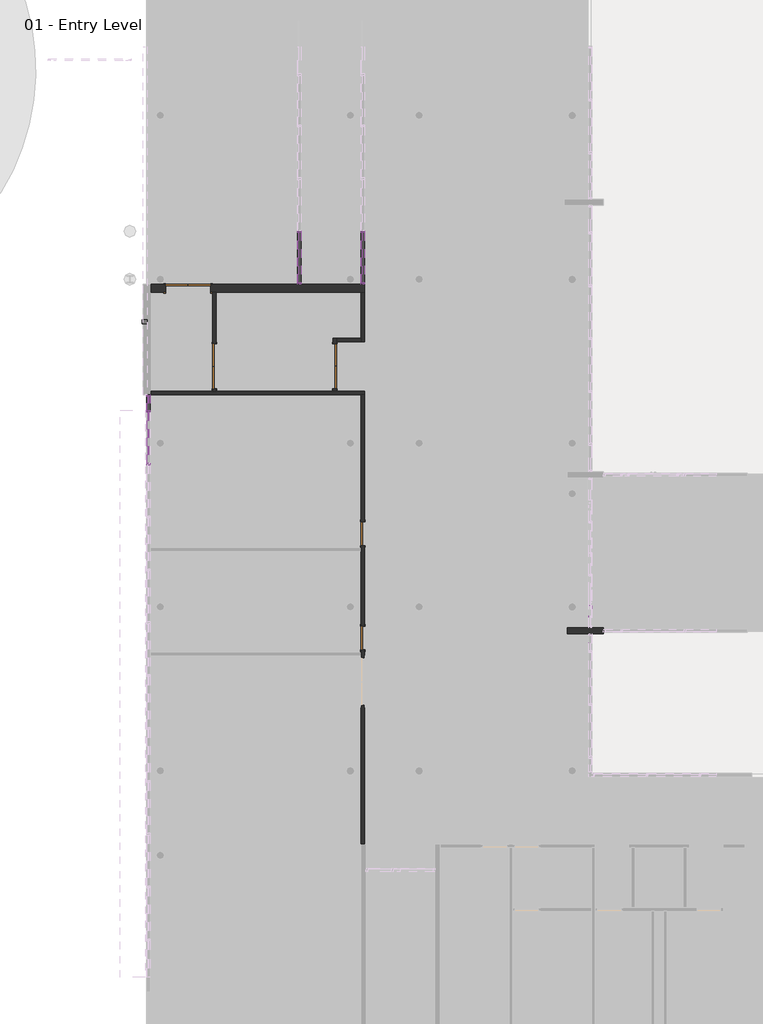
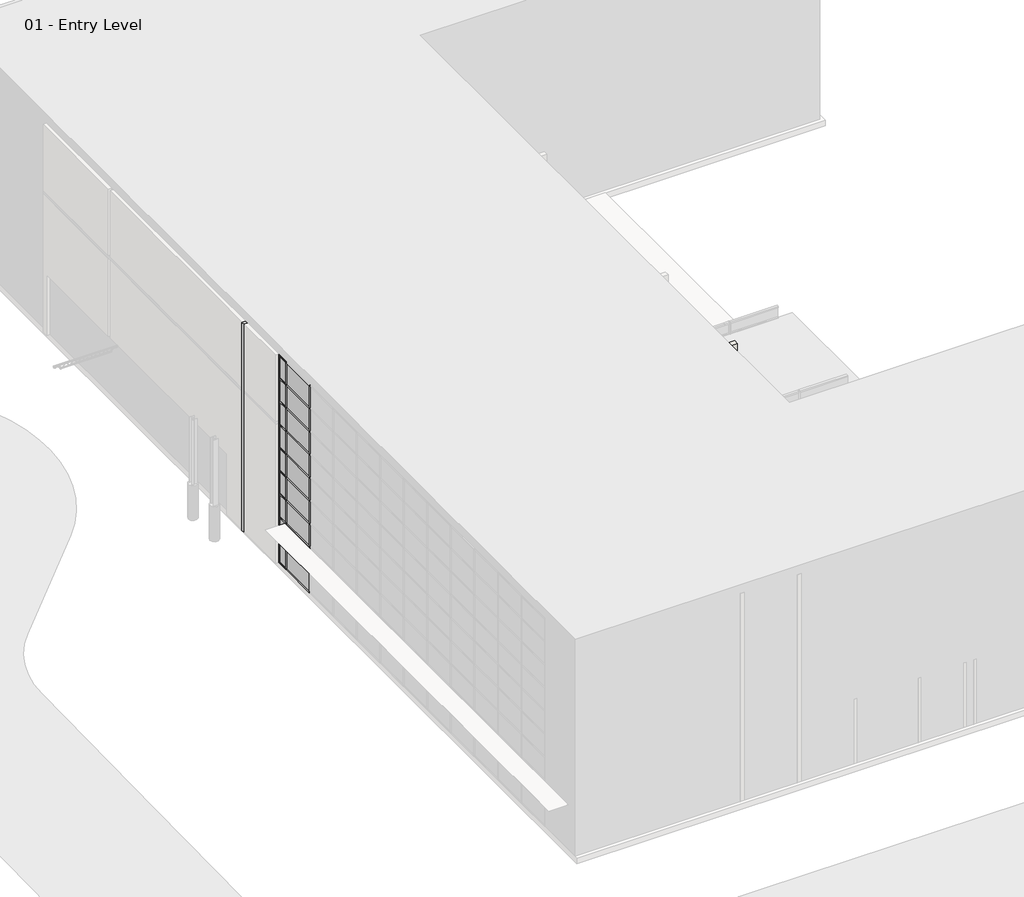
# One storey, part 12 of 34: 72 members, 24 plates, 8 walls, 5 doors, 1 proxy.
"""IFC4 building model written with IfcOpenShell, lengths in millimetres."""

from ifc_helpers import new_model, si_unit, frame, origin, origin_with_axes, place, context, project, spatial, polyline, outline, extrude, faceted_brep, transform, mapped, element, save
from components import door_07ba55ef, door_bdee7c2d, door_a3eb833a, member_2b49869a, member_75074519, member_18e22e2d, member_9193c932, member_391b434c, member_4f18b2ac, member_7a85b04f, member_fbc627c7, member_73c075c8, member_ece69ae7, member_e5d39754, member_5aa65f11, member_47bfaf8a, member_5d67b9fc, member_c327c56d, member_ec52078f, member_cc8ff548, system_panel_glazed_ac179f57, system_panel_glazed_1b9d6098, system_panel_glazed_70da479d, system_panel_glazed_9419342d, system_panel_glazed_b3ddbf8e, system_panel_glazed_346f81d9, system_panel_glazed_d60e1f89, system_panel_solid_b376696c, system_panel_solid_77e8b053, system_panel_solid_89b132cb, system_panel_solid_f04240b3

model = new_model("IFC4")

# Units and contexts
model_context = context("Model", 3, world=origin())
ifc_project = project(units=[si_unit("LENGTHUNIT", "METRE", prefix="MILLI")], contexts=[model_context])

# Site, building, storey
site = spatial("IfcSite", under=ifc_project)
building = spatial("IfcBuilding", under=site)
storey = spatial("IfcBuildingStorey", under=building, Name="01 - Entry Level", Elevation=0.0)

# Proxy
placement = place(None, origin())
element("IfcBuildingElementProxy", 1, Name="Reveal", ObjectType="Reveal", at=placement, inside=storey, context=model_context, shape_type="SweptSolid", body=[
    extrude(outline(polyline([(-58.1342524, 28514.6), (124.7457476, 28514.6), (124.7457476, 28362.2), (-58.1342524, 28362.2), (-58.1342524, 28514.6)])), origin_with_axes(), (0.0, 0.0, 1.0), 10972.8),
])

# Doors
door_shape = door_07ba55ef(model_context)
element("IfcDoor", 2, ObjectType="Double-Flush : 68\" x 84\"", at=placement, inside=storey, context=model_context, shape_type="MappedRepresentation", body=[
    mapped(door_shape, transform((2718.7207476, 26711.2, 0.0), x_axis=(0.0, 1.0, 0.0), y_axis=(-1.0, 0.0, 0.0), z_axis=(0.0, 0.0, 1.0))),
])
element("IfcDoor", 3, ObjectType="Double-Flush : 68\" x 84\"", at=placement, inside=storey, context=model_context, shape_type="MappedRepresentation", body=[
    mapped(door_shape, transform((7354.2207476, 26711.2, 0.0), x_axis=(0.0, -1.0, 0.0), y_axis=(1.0, 0.0, 0.0), z_axis=(0.0, 0.0, 1.0))),
])
door_2_shape = door_bdee7c2d(model_context)
element("IfcDoor", 4, ObjectType="Double-Flush : 68\" x 84\"", at=placement, inside=storey, context=model_context, shape_type="MappedRepresentation", body=[
    mapped(door_2_shape, transform((1702.7207476, 29709.9875, 0.0), x_axis=(1.0, 0.0, 0.0), y_axis=(0.0, 1.0, 0.0), z_axis=(0.0, 0.0, 1.0))),
])
door_3_shape = door_a3eb833a(model_context)
element("IfcDoor", 5, ObjectType="Single-Flush : 36\" x 84\"", at=placement, inside=storey, context=model_context, shape_type="MappedRepresentation", body=[
    mapped(door_3_shape, transform((8421.0207476, 20285.0, 0.0), x_axis=(0.0, -1.0, 0.0), y_axis=(1.0, 0.0, 0.0), z_axis=(0.0, 0.0, 1.0))),
])
element("IfcDoor", 6, ObjectType="Single-Flush : 36\" x 84\"", at=placement, inside=storey, context=model_context, shape_type="MappedRepresentation", body=[
    mapped(door_3_shape, transform((8421.0207476, 16271.8, 0.0), x_axis=(0.0, -1.0, 0.0), y_axis=(1.0, 0.0, 0.0), z_axis=(0.0, 0.0, 1.0))),
])

# Members
member_shape = member_2b49869a(model_context)
element("IfcMember", 7, ObjectType="Rectangular Mullion : 2.5\" x 5\" rectangular", at=placement, inside=storey, context=model_context, shape_type="MappedRepresentation", body=[
    mapped(member_shape, transform((178.7207476, 24984.0, 9753.6), x_axis=(0.0, -1.0, 0.0), y_axis=(-1.0, 0.0, 0.0), z_axis=(0.0, 0.0, -1.0))),
])
element("IfcMember", 8, ObjectType="Rectangular Mullion : 2.5\" x 5\" rectangular", at=placement, inside=storey, context=model_context, shape_type="MappedRepresentation", body=[
    mapped(member_shape, transform((178.7207476, 22952.0, 9753.6), x_axis=(0.0, -1.0, 0.0), y_axis=(-1.0, 0.0, 0.0), z_axis=(0.0, 0.0, -1.0))),
])
member_2_shape = member_75074519(model_context)
element("IfcMember", 9, ObjectType="Rectangular Mullion : 2.5\" x 5\" rectangular", at=placement, inside=storey, context=model_context, shape_type="MappedRepresentation", body=[
    mapped(member_2_shape, transform((178.7207476, 25631.7, 10972.8), x_axis=(0.0, 1.0, 0.0), y_axis=(-1.0, 0.0, 0.0), z_axis=(0.0, 0.0, 1.0))),
])
element("IfcMember", 10, ObjectType="Rectangular Mullion : 2.5\" x 5\" rectangular", at=placement, inside=storey, context=model_context, shape_type="MappedRepresentation", body=[
    mapped(member_2_shape, transform((17184.0207476, 16665.5, 10972.8), x_axis=(0.0, -1.0, 0.0), y_axis=(1.0, 0.0, 0.0), z_axis=(0.0, 0.0, 1.0))),
])
member_3_shape = member_18e22e2d(model_context)
element("IfcMember", 11, ObjectType="Rectangular Mullion : 2.5\" x 5\" rectangular", at=placement, inside=storey, context=model_context, shape_type="MappedRepresentation", body=[
    mapped(member_3_shape, transform((5982.6207476, 31895.975, 2438.4), x_axis=(0.0, 1.0, 0.0), y_axis=(1.0, 0.0, 0.0), z_axis=(0.0, 0.0, -1.0))),
])
element("IfcMember", 12, ObjectType="Rectangular Mullion : 2.5\" x 5\" rectangular", at=placement, inside=storey, context=model_context, shape_type="MappedRepresentation", body=[
    mapped(member_3_shape, transform((8421.0207476, 31895.975, 2438.4), x_axis=(0.0, 1.0, 0.0), y_axis=(1.0, 0.0, 0.0), z_axis=(0.0, 0.0, -1.0))),
])
member_4_shape = member_9193c932(model_context)
element("IfcMember", 13, ObjectType="Rectangular Mullion : 2.5\" x 5\" rectangular", at=placement, inside=storey, context=model_context, shape_type="MappedRepresentation", body=[
    mapped(member_4_shape, transform((5982.6207476, 29863.975, 3403.6), x_axis=(0.0, -1.0, 0.0), y_axis=(1.0, 0.0, 0.0), z_axis=(0.0, 0.0, 1.0))),
])
element("IfcMember", 14, ObjectType="Rectangular Mullion : 2.5\" x 5\" rectangular", at=placement, inside=storey, context=model_context, shape_type="MappedRepresentation", body=[
    mapped(member_4_shape, transform((8421.0207476, 29863.975, 3403.6), x_axis=(0.0, -1.0, 0.0), y_axis=(1.0, 0.0, 0.0), z_axis=(0.0, 0.0, 1.0))),
])
member_5_shape = member_391b434c(model_context)
element("IfcMember", 15, ObjectType="Rectangular Mullion : 2.5\" x 5\" rectangular", at=placement, inside=storey, context=model_context, shape_type="MappedRepresentation", body=[
    mapped(member_5_shape, transform((178.7207476, 24952.25, 0.0), x_axis=(0.0, 0.0, -1.0), y_axis=(-1.0, 0.0, 0.0), z_axis=(0.0, 1.0, 0.0))),
])
element("IfcMember", 16, ObjectType="Rectangular Mullion : 2.5\" x 5\" rectangular", at=placement, inside=storey, context=model_context, shape_type="MappedRepresentation", body=[
    mapped(member_shape, transform((178.7207476, 24984.0, 0.0), x_axis=(0.0, -1.0, 0.0), y_axis=(-1.0, 0.0, 0.0), z_axis=(0.0, 0.0, -1.0))),
])
element("IfcMember", 17, ObjectType="Rectangular Mullion : 2.5\" x 5\" rectangular", at=placement, inside=storey, context=model_context, shape_type="MappedRepresentation", body=[
    mapped(member_shape, transform((178.7207476, 24984.0, 1219.2), x_axis=(0.0, -1.0, 0.0), y_axis=(-1.0, 0.0, 0.0), z_axis=(0.0, 0.0, -1.0))),
])
element("IfcMember", 18, ObjectType="Rectangular Mullion : 2.5\" x 5\" rectangular", at=placement, inside=storey, context=model_context, shape_type="MappedRepresentation", body=[
    mapped(member_shape, transform((178.7207476, 22952.0, 1219.2), x_axis=(0.0, -1.0, 0.0), y_axis=(-1.0, 0.0, 0.0), z_axis=(0.0, 0.0, -1.0))),
])
element("IfcMember", 19, ObjectType="Rectangular Mullion : 2.5\" x 5\" rectangular", at=placement, inside=storey, context=model_context, shape_type="MappedRepresentation", body=[
    mapped(member_shape, transform((178.7207476, 24984.0, 2438.4), x_axis=(0.0, -1.0, 0.0), y_axis=(-1.0, 0.0, 0.0), z_axis=(0.0, 0.0, -1.0))),
])
element("IfcMember", 20, ObjectType="Rectangular Mullion : 2.5\" x 5\" rectangular", at=placement, inside=storey, context=model_context, shape_type="MappedRepresentation", body=[
    mapped(member_shape, transform((178.7207476, 22952.0, 2438.4), x_axis=(0.0, -1.0, 0.0), y_axis=(-1.0, 0.0, 0.0), z_axis=(0.0, 0.0, -1.0))),
])
element("IfcMember", 21, ObjectType="Rectangular Mullion : 2.5\" x 5\" rectangular", at=placement, inside=storey, context=model_context, shape_type="MappedRepresentation", body=[
    mapped(member_shape, transform((178.7207476, 24984.0, 3657.6), x_axis=(0.0, -1.0, 0.0), y_axis=(-1.0, 0.0, 0.0), z_axis=(0.0, 0.0, -1.0))),
])
element("IfcMember", 22, ObjectType="Rectangular Mullion : 2.5\" x 5\" rectangular", at=placement, inside=storey, context=model_context, shape_type="MappedRepresentation", body=[
    mapped(member_shape, transform((178.7207476, 22952.0, 3657.6), x_axis=(0.0, -1.0, 0.0), y_axis=(-1.0, 0.0, 0.0), z_axis=(0.0, 0.0, -1.0))),
])
element("IfcMember", 23, ObjectType="Rectangular Mullion : 2.5\" x 5\" rectangular", at=placement, inside=storey, context=model_context, shape_type="MappedRepresentation", body=[
    mapped(member_shape, transform((178.7207476, 24984.0, 4876.8), x_axis=(0.0, -1.0, 0.0), y_axis=(-1.0, 0.0, 0.0), z_axis=(0.0, 0.0, -1.0))),
])
element("IfcMember", 24, ObjectType="Rectangular Mullion : 2.5\" x 5\" rectangular", at=placement, inside=storey, context=model_context, shape_type="MappedRepresentation", body=[
    mapped(member_shape, transform((178.7207476, 22952.0, 4876.8), x_axis=(0.0, -1.0, 0.0), y_axis=(-1.0, 0.0, 0.0), z_axis=(0.0, 0.0, -1.0))),
])
element("IfcMember", 25, ObjectType="Rectangular Mullion : 2.5\" x 5\" rectangular", at=placement, inside=storey, context=model_context, shape_type="MappedRepresentation", body=[
    mapped(member_shape, transform((178.7207476, 24984.0, 6096.0), x_axis=(0.0, -1.0, 0.0), y_axis=(-1.0, 0.0, 0.0), z_axis=(0.0, 0.0, -1.0))),
])
element("IfcMember", 26, ObjectType="Rectangular Mullion : 2.5\" x 5\" rectangular", at=placement, inside=storey, context=model_context, shape_type="MappedRepresentation", body=[
    mapped(member_shape, transform((178.7207476, 22952.0, 6096.0), x_axis=(0.0, -1.0, 0.0), y_axis=(-1.0, 0.0, 0.0), z_axis=(0.0, 0.0, -1.0))),
])
element("IfcMember", 27, ObjectType="Rectangular Mullion : 2.5\" x 5\" rectangular", at=placement, inside=storey, context=model_context, shape_type="MappedRepresentation", body=[
    mapped(member_shape, transform((178.7207476, 24984.0, 7315.2), x_axis=(0.0, -1.0, 0.0), y_axis=(-1.0, 0.0, 0.0), z_axis=(0.0, 0.0, -1.0))),
])
element("IfcMember", 28, ObjectType="Rectangular Mullion : 2.5\" x 5\" rectangular", at=placement, inside=storey, context=model_context, shape_type="MappedRepresentation", body=[
    mapped(member_shape, transform((178.7207476, 22952.0, 7315.2), x_axis=(0.0, -1.0, 0.0), y_axis=(-1.0, 0.0, 0.0), z_axis=(0.0, 0.0, -1.0))),
])
element("IfcMember", 29, ObjectType="Rectangular Mullion : 2.5\" x 5\" rectangular", at=placement, inside=storey, context=model_context, shape_type="MappedRepresentation", body=[
    mapped(member_shape, transform((178.7207476, 24984.0, 8534.4), x_axis=(0.0, -1.0, 0.0), y_axis=(-1.0, 0.0, 0.0), z_axis=(0.0, 0.0, -1.0))),
])
element("IfcMember", 30, ObjectType="Rectangular Mullion : 2.5\" x 5\" rectangular", at=placement, inside=storey, context=model_context, shape_type="MappedRepresentation", body=[
    mapped(member_shape, transform((178.7207476, 22952.0, 8534.4), x_axis=(0.0, -1.0, 0.0), y_axis=(-1.0, 0.0, 0.0), z_axis=(0.0, 0.0, -1.0))),
])
member_6_shape = member_4f18b2ac(model_context)
element("IfcMember", 31, ObjectType="Rectangular Mullion : 2.5\" x 5\" rectangular", at=placement, inside=storey, context=model_context, shape_type="MappedRepresentation", body=[
    mapped(member_6_shape, transform((5982.6207476, 29927.475, 0.0), x_axis=(0.0, 0.0, -1.0), y_axis=(1.0, 0.0, 0.0), z_axis=(0.0, -1.0, 0.0))),
])
element("IfcMember", 32, ObjectType="Rectangular Mullion : 2.5\" x 5\" rectangular", at=placement, inside=storey, context=model_context, shape_type="MappedRepresentation", body=[
    mapped(member_6_shape, transform((8421.0207476, 29927.475, 0.0), x_axis=(0.0, 0.0, -1.0), y_axis=(1.0, 0.0, 0.0), z_axis=(0.0, -1.0, 0.0))),
])
element("IfcMember", 33, ObjectType="Rectangular Mullion : 2.5\" x 5\" rectangular", at=placement, inside=storey, context=model_context, shape_type="MappedRepresentation", body=[
    mapped(member_6_shape, transform((5982.6207476, 31864.225, 3403.6), x_axis=(0.0, 0.0, 1.0), y_axis=(1.0, 0.0, 0.0), z_axis=(0.0, 1.0, 0.0))),
])
element("IfcMember", 34, ObjectType="Rectangular Mullion : 2.5\" x 5\" rectangular", at=placement, inside=storey, context=model_context, shape_type="MappedRepresentation", body=[
    mapped(member_6_shape, transform((8421.0207476, 31864.225, 3403.6), x_axis=(0.0, 0.0, 1.0), y_axis=(1.0, 0.0, 0.0), z_axis=(0.0, 1.0, 0.0))),
])
element("IfcMember", 35, ObjectType="Rectangular Mullion : 2.5\" x 5\" rectangular", at=placement, inside=storey, context=model_context, shape_type="MappedRepresentation", body=[
    mapped(member_5_shape, transform((5982.6207476, 31927.725, 0.0), x_axis=(0.0, 0.0, -1.0), y_axis=(1.0, 0.0, 0.0), z_axis=(0.0, -1.0, 0.0))),
])
element("IfcMember", 36, ObjectType="Rectangular Mullion : 2.5\" x 5\" rectangular", at=placement, inside=storey, context=model_context, shape_type="MappedRepresentation", body=[
    mapped(member_5_shape, transform((8421.0207476, 31927.725, 0.0), x_axis=(0.0, 0.0, -1.0), y_axis=(1.0, 0.0, 0.0), z_axis=(0.0, -1.0, 0.0))),
])
member_7_shape = member_7a85b04f(model_context)
element("IfcMember", 37, ObjectType="Rectangular Mullion : 2.5\" x 5\" rectangular", at=placement, inside=storey, context=model_context, shape_type="MappedRepresentation", body=[
    mapped(member_7_shape, transform((5982.6207476, 31864.225, 1219.2), x_axis=(0.0, 0.0, 1.0), y_axis=(1.0, 0.0, 0.0), z_axis=(0.0, 1.0, 0.0))),
])
element("IfcMember", 38, ObjectType="Rectangular Mullion : 2.5\" x 5\" rectangular", at=placement, inside=storey, context=model_context, shape_type="MappedRepresentation", body=[
    mapped(member_7_shape, transform((5982.6207476, 31864.225, 2438.4), x_axis=(0.0, 0.0, 1.0), y_axis=(1.0, 0.0, 0.0), z_axis=(0.0, 1.0, 0.0))),
])
element("IfcMember", 39, ObjectType="Rectangular Mullion : 2.5\" x 5\" rectangular", at=placement, inside=storey, context=model_context, shape_type="MappedRepresentation", body=[
    mapped(member_7_shape, transform((8421.0207476, 31864.225, 1219.2), x_axis=(0.0, 0.0, 1.0), y_axis=(1.0, 0.0, 0.0), z_axis=(0.0, 1.0, 0.0))),
])
element("IfcMember", 40, ObjectType="Rectangular Mullion : 2.5\" x 5\" rectangular", at=placement, inside=storey, context=model_context, shape_type="MappedRepresentation", body=[
    mapped(member_7_shape, transform((8421.0207476, 31864.225, 2438.4), x_axis=(0.0, 0.0, 1.0), y_axis=(1.0, 0.0, 0.0), z_axis=(0.0, 1.0, 0.0))),
])
element("IfcMember", 41, ObjectType="Rectangular Mullion : 2.5\" x 5\" rectangular", at=placement, inside=storey, context=model_context, shape_type="MappedRepresentation", body=[
    mapped(member_shape, transform((5982.6207476, 31895.975, 0.0), x_axis=(0.0, 1.0, 0.0), y_axis=(1.0, 0.0, 0.0), z_axis=(0.0, 0.0, -1.0))),
])
element("IfcMember", 42, ObjectType="Rectangular Mullion : 2.5\" x 5\" rectangular", at=placement, inside=storey, context=model_context, shape_type="MappedRepresentation", body=[
    mapped(member_shape, transform((8421.0207476, 31895.975, 0.0), x_axis=(0.0, 1.0, 0.0), y_axis=(1.0, 0.0, 0.0), z_axis=(0.0, 0.0, -1.0))),
])
member_8_shape = member_fbc627c7(model_context)
element("IfcMember", 43, ObjectType="Rectangular Mullion : 2.5\" x 5\" rectangular", at=placement, inside=storey, context=model_context, shape_type="MappedRepresentation", body=[
    mapped(member_8_shape, transform((17184.0207476, 16665.5, 7598.3874103), x_axis=(0.0, -0.31622776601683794, -0.9486832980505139), y_axis=(1.0, 0.0, 0.0), z_axis=(0.0, -0.9486832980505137, 0.3162277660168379))),
])
element("IfcMember", 44, ObjectType="Rectangular Mullion : 2.5\" x 5\" rectangular", at=placement, inside=storey, context=model_context, shape_type="MappedRepresentation", body=[
    mapped(member_2_shape, transform((17184.0207476, 16436.9, 0.0), x_axis=(0.0, 1.0, 0.0), y_axis=(1.0, 0.0, 0.0), z_axis=(0.0, 0.0, -1.0))),
])
element("IfcMember", 45, ObjectType="Rectangular Mullion : 2.5\" x 5\" rectangular", at=placement, inside=storey, context=model_context, shape_type="MappedRepresentation", body=[
    mapped(member_2_shape, transform((17184.0207476, 16436.9, 1219.2), x_axis=(0.0, 1.0, 0.0), y_axis=(1.0, 0.0, 0.0), z_axis=(0.0, 0.0, -1.0))),
])
element("IfcMember", 46, ObjectType="Rectangular Mullion : 2.5\" x 5\" rectangular", at=placement, inside=storey, context=model_context, shape_type="MappedRepresentation", body=[
    mapped(member_2_shape, transform((17184.0207476, 16436.9, 2438.4), x_axis=(0.0, 1.0, 0.0), y_axis=(1.0, 0.0, 0.0), z_axis=(0.0, 0.0, -1.0))),
])
element("IfcMember", 47, ObjectType="Rectangular Mullion : 2.5\" x 5\" rectangular", at=placement, inside=storey, context=model_context, shape_type="MappedRepresentation", body=[
    mapped(member_2_shape, transform((17184.0207476, 16436.9, 3657.6), x_axis=(0.0, 1.0, 0.0), y_axis=(1.0, 0.0, 0.0), z_axis=(0.0, 0.0, -1.0))),
])
element("IfcMember", 48, ObjectType="Rectangular Mullion : 2.5\" x 5\" rectangular", at=placement, inside=storey, context=model_context, shape_type="MappedRepresentation", body=[
    mapped(member_2_shape, transform((178.7207476, 25631.7, 1219.2), x_axis=(0.0, 1.0, 0.0), y_axis=(-1.0, 0.0, 0.0), z_axis=(0.0, 0.0, 1.0))),
])
element("IfcMember", 49, ObjectType="Rectangular Mullion : 2.5\" x 5\" rectangular", at=placement, inside=storey, context=model_context, shape_type="MappedRepresentation", body=[
    mapped(member_2_shape, transform((178.7207476, 25631.7, 2438.4), x_axis=(0.0, 1.0, 0.0), y_axis=(-1.0, 0.0, 0.0), z_axis=(0.0, 0.0, 1.0))),
])
element("IfcMember", 50, ObjectType="Rectangular Mullion : 2.5\" x 5\" rectangular", at=placement, inside=storey, context=model_context, shape_type="MappedRepresentation", body=[
    mapped(member_2_shape, transform((178.7207476, 25631.7, 3657.6), x_axis=(0.0, 1.0, 0.0), y_axis=(-1.0, 0.0, 0.0), z_axis=(0.0, 0.0, 1.0))),
])
element("IfcMember", 51, ObjectType="Rectangular Mullion : 2.5\" x 5\" rectangular", at=placement, inside=storey, context=model_context, shape_type="MappedRepresentation", body=[
    mapped(member_2_shape, transform((178.7207476, 25631.7, 4876.8), x_axis=(0.0, 1.0, 0.0), y_axis=(-1.0, 0.0, 0.0), z_axis=(0.0, 0.0, 1.0))),
])
element("IfcMember", 52, ObjectType="Rectangular Mullion : 2.5\" x 5\" rectangular", at=placement, inside=storey, context=model_context, shape_type="MappedRepresentation", body=[
    mapped(member_2_shape, transform((178.7207476, 25631.7, 6096.0), x_axis=(0.0, 1.0, 0.0), y_axis=(-1.0, 0.0, 0.0), z_axis=(0.0, 0.0, 1.0))),
])
element("IfcMember", 53, ObjectType="Rectangular Mullion : 2.5\" x 5\" rectangular", at=placement, inside=storey, context=model_context, shape_type="MappedRepresentation", body=[
    mapped(member_2_shape, transform((178.7207476, 25631.7, 7315.2), x_axis=(0.0, 1.0, 0.0), y_axis=(-1.0, 0.0, 0.0), z_axis=(0.0, 0.0, 1.0))),
])
element("IfcMember", 54, ObjectType="Rectangular Mullion : 2.5\" x 5\" rectangular", at=placement, inside=storey, context=model_context, shape_type="MappedRepresentation", body=[
    mapped(member_2_shape, transform((178.7207476, 25631.7, 8534.4), x_axis=(0.0, 1.0, 0.0), y_axis=(-1.0, 0.0, 0.0), z_axis=(0.0, 0.0, 1.0))),
])
element("IfcMember", 55, ObjectType="Rectangular Mullion : 2.5\" x 5\" rectangular", at=placement, inside=storey, context=model_context, shape_type="MappedRepresentation", body=[
    mapped(member_2_shape, transform((178.7207476, 25631.7, 9753.6), x_axis=(0.0, 1.0, 0.0), y_axis=(-1.0, 0.0, 0.0), z_axis=(0.0, 0.0, 1.0))),
])
element("IfcMember", 56, ObjectType="Rectangular Mullion : 2.5\" x 5\" rectangular", at=placement, inside=storey, context=model_context, shape_type="MappedRepresentation", body=[
    mapped(member_2_shape, transform((5982.6207476, 29863.975, 1219.2), x_axis=(0.0, -1.0, 0.0), y_axis=(1.0, 0.0, 0.0), z_axis=(0.0, 0.0, 1.0))),
])
element("IfcMember", 57, ObjectType="Rectangular Mullion : 2.5\" x 5\" rectangular", at=placement, inside=storey, context=model_context, shape_type="MappedRepresentation", body=[
    mapped(member_2_shape, transform((8421.0207476, 29863.975, 1219.2), x_axis=(0.0, -1.0, 0.0), y_axis=(1.0, 0.0, 0.0), z_axis=(0.0, 0.0, 1.0))),
])
member_9_shape = member_73c075c8(model_context)
element("IfcMember", 58, ObjectType="Rectangular Mullion : 2.5\" x 5\" rectangular", at=placement, inside=storey, context=model_context, shape_type="MappedRepresentation", body=[
    mapped(member_9_shape, transform((178.7207476, 25568.2, 0.0), x_axis=(0.0, 0.0, -1.0), y_axis=(-1.0, 0.0, 0.0), z_axis=(0.0, 1.0, 0.0))),
])
element("IfcMember", 59, ObjectType="Rectangular Mullion : 2.5\" x 5\" rectangular", at=placement, inside=storey, context=model_context, shape_type="MappedRepresentation", body=[
    mapped(member_9_shape, transform((178.7207476, 25015.75, 10972.8), x_axis=(0.0, 0.0, 1.0), y_axis=(-1.0, 0.0, 0.0), z_axis=(0.0, -1.0, 0.0))),
])
member_10_shape = member_ece69ae7(model_context)
element("IfcMember", 60, ObjectType="Rectangular Mullion : 2.5\" x 5\" rectangular", at=placement, inside=storey, context=model_context, shape_type="MappedRepresentation", body=[
    mapped(member_10_shape, transform((178.7207476, 25015.75, 1219.2), x_axis=(0.0, 0.0, 1.0), y_axis=(-1.0, 0.0, 0.0), z_axis=(0.0, -1.0, 0.0))),
])
element("IfcMember", 61, ObjectType="Rectangular Mullion : 2.5\" x 5\" rectangular", at=placement, inside=storey, context=model_context, shape_type="MappedRepresentation", body=[
    mapped(member_10_shape, transform((178.7207476, 25015.75, 2438.4), x_axis=(0.0, 0.0, 1.0), y_axis=(-1.0, 0.0, 0.0), z_axis=(0.0, -1.0, 0.0))),
])
element("IfcMember", 62, ObjectType="Rectangular Mullion : 2.5\" x 5\" rectangular", at=placement, inside=storey, context=model_context, shape_type="MappedRepresentation", body=[
    mapped(member_10_shape, transform((178.7207476, 25015.75, 3657.6), x_axis=(0.0, 0.0, 1.0), y_axis=(-1.0, 0.0, 0.0), z_axis=(0.0, -1.0, 0.0))),
])
element("IfcMember", 63, ObjectType="Rectangular Mullion : 2.5\" x 5\" rectangular", at=placement, inside=storey, context=model_context, shape_type="MappedRepresentation", body=[
    mapped(member_10_shape, transform((178.7207476, 25015.75, 4876.8), x_axis=(0.0, 0.0, 1.0), y_axis=(-1.0, 0.0, 0.0), z_axis=(0.0, -1.0, 0.0))),
])
element("IfcMember", 64, ObjectType="Rectangular Mullion : 2.5\" x 5\" rectangular", at=placement, inside=storey, context=model_context, shape_type="MappedRepresentation", body=[
    mapped(member_10_shape, transform((178.7207476, 25015.75, 6096.0), x_axis=(0.0, 0.0, 1.0), y_axis=(-1.0, 0.0, 0.0), z_axis=(0.0, -1.0, 0.0))),
])
element("IfcMember", 65, ObjectType="Rectangular Mullion : 2.5\" x 5\" rectangular", at=placement, inside=storey, context=model_context, shape_type="MappedRepresentation", body=[
    mapped(member_10_shape, transform((178.7207476, 25015.75, 7315.2), x_axis=(0.0, 0.0, 1.0), y_axis=(-1.0, 0.0, 0.0), z_axis=(0.0, -1.0, 0.0))),
])
element("IfcMember", 66, ObjectType="Rectangular Mullion : 2.5\" x 5\" rectangular", at=placement, inside=storey, context=model_context, shape_type="MappedRepresentation", body=[
    mapped(member_10_shape, transform((178.7207476, 25015.75, 8534.4), x_axis=(0.0, 0.0, 1.0), y_axis=(-1.0, 0.0, 0.0), z_axis=(0.0, -1.0, 0.0))),
])
element("IfcMember", 67, ObjectType="Rectangular Mullion : 2.5\" x 5\" rectangular", at=placement, inside=storey, context=model_context, shape_type="MappedRepresentation", body=[
    mapped(member_10_shape, transform((178.7207476, 25015.75, 9753.6), x_axis=(0.0, 0.0, 1.0), y_axis=(-1.0, 0.0, 0.0), z_axis=(0.0, -1.0, 0.0))),
])
member_11_shape = member_e5d39754(model_context)
element("IfcMember", 68, ObjectType="Rectangular Mullion : 2.5\" x 5\" rectangular", at=placement, inside=storey, context=model_context, shape_type="MappedRepresentation", body=[
    mapped(member_11_shape, transform((17184.0207476, 16373.4, 10972.8), x_axis=(0.0, 0.0, 1.0), y_axis=(1.0, 0.0, 0.0), z_axis=(0.0, 1.0, 0.0))),
])
member_12_shape = member_5aa65f11(model_context)
element("IfcMember", 69, ObjectType="Rectangular Mullion : 2.5\" x 5\" rectangular", at=placement, inside=storey, context=model_context, shape_type="MappedRepresentation", body=[
    mapped(member_12_shape, transform((17752.4115197, 16551.2, 0.0), x_axis=(0.0, 0.0, -1.0), y_axis=(0.0, -1.0, 0.0), z_axis=(-1.0, 0.0, 0.0))),
])
member_13_shape = member_47bfaf8a(model_context)
element("IfcMember", 70, ObjectType="Rectangular Mullion : 2.5\" x 5\" rectangular", at=placement, inside=storey, context=model_context, shape_type="MappedRepresentation", body=[
    mapped(member_13_shape, transform((17688.9115197, 16551.2, 7315.2), x_axis=(-1.0, 0.0, 0.0), y_axis=(0.0, -1.0, 0.0), z_axis=(0.0, 0.0, 1.0))),
])
member_14_shape = member_5d67b9fc(model_context)
element("IfcMember", 71, ObjectType="Rectangular Mullion : 2.5\" x 5\" rectangular", at=placement, inside=storey, context=model_context, shape_type="MappedRepresentation", body=[
    mapped(member_14_shape, transform((5982.6207476, 31895.975, 2165.35), x_axis=(0.0, 1.0, 0.0), y_axis=(1.0, 0.0, 0.0), z_axis=(0.0, 0.0, -1.0))),
])
element("IfcMember", 72, ObjectType="Rectangular Mullion : 2.5\" x 5\" rectangular", at=placement, inside=storey, context=model_context, shape_type="MappedRepresentation", body=[
    mapped(member_14_shape, transform((8421.0207476, 31895.975, 2165.35), x_axis=(0.0, 1.0, 0.0), y_axis=(1.0, 0.0, 0.0), z_axis=(0.0, 0.0, -1.0))),
])
member_15_shape = member_c327c56d(model_context)
element("IfcMember", 73, ObjectType="Rectangular Mullion : 2.5\" x 5\" rectangular", at=placement, inside=storey, context=model_context, shape_type="MappedRepresentation", body=[
    mapped(member_15_shape, transform((5982.6207476, 29863.975, 2438.4), x_axis=(0.0, -1.0, 0.0), y_axis=(1.0, 0.0, 0.0), z_axis=(0.0, 0.0, 1.0))),
])
element("IfcMember", 74, ObjectType="Rectangular Mullion : 2.5\" x 5\" rectangular", at=placement, inside=storey, context=model_context, shape_type="MappedRepresentation", body=[
    mapped(member_15_shape, transform((8421.0207476, 29863.975, 2438.4), x_axis=(0.0, -1.0, 0.0), y_axis=(1.0, 0.0, 0.0), z_axis=(0.0, 0.0, 1.0))),
])
member_16_shape = member_ec52078f(model_context)
element("IfcMember", 75, ObjectType="Rectangular Mullion : 2.5\" x 5\" rectangular", at=placement, inside=storey, context=model_context, shape_type="MappedRepresentation", body=[
    mapped(member_16_shape, transform((5982.6207476, 31895.975, 1219.2), x_axis=(0.0, 1.0, 0.0), y_axis=(1.0, 0.0, 0.0), z_axis=(0.0, 0.0, -1.0))),
])
element("IfcMember", 76, ObjectType="Rectangular Mullion : 2.5\" x 5\" rectangular", at=placement, inside=storey, context=model_context, shape_type="MappedRepresentation", body=[
    mapped(member_16_shape, transform((8421.0207476, 31895.975, 1219.2), x_axis=(0.0, 1.0, 0.0), y_axis=(1.0, 0.0, 0.0), z_axis=(0.0, 0.0, -1.0))),
])
member_17_shape = member_cc8ff548(model_context)
element("IfcMember", 77, ObjectType="Rectangular Mullion : 2.5\" x 5\" rectangular", at=placement, inside=storey, context=model_context, shape_type="MappedRepresentation", body=[
    mapped(member_17_shape, transform((5982.6207476, 29863.975, 2165.35), x_axis=(0.0, -1.0, 0.0), y_axis=(1.0, 0.0, 0.0), z_axis=(0.0, 0.0, 1.0))),
])
element("IfcMember", 78, ObjectType="Rectangular Mullion : 2.5\" x 5\" rectangular", at=placement, inside=storey, context=model_context, shape_type="MappedRepresentation", body=[
    mapped(member_17_shape, transform((8421.0207476, 29863.975, 2165.35), x_axis=(0.0, -1.0, 0.0), y_axis=(1.0, 0.0, 0.0), z_axis=(0.0, 0.0, 1.0))),
])

# Plates
system_panel_glazed_shape = system_panel_glazed_ac179f57(model_context)
element("IfcPlate", 79, ObjectType="System Panel : Glazed", at=placement, inside=storey, context=model_context, shape_type="MappedRepresentation", body=[
    mapped(system_panel_glazed_shape, transform((5982.6207476, 30895.85, 63.5), x_axis=(0.0, 1.0, 0.0), y_axis=(-1.0, 0.0, 0.0), z_axis=(0.0, 0.0, 1.0))),
])
element("IfcPlate", 80, ObjectType="System Panel : Glazed", at=placement, inside=storey, context=model_context, shape_type="MappedRepresentation", body=[
    mapped(system_panel_glazed_shape, transform((8421.0207476, 30895.85, 63.5), x_axis=(0.0, 1.0, 0.0), y_axis=(-1.0, 0.0, 0.0), z_axis=(0.0, 0.0, 1.0))),
])
system_panel_glazed_2_shape = system_panel_glazed_1b9d6098(model_context)
element("IfcPlate", 81, ObjectType="System Panel : Glazed", at=placement, inside=storey, context=model_context, shape_type="MappedRepresentation", body=[
    mapped(system_panel_glazed_2_shape, transform((178.7207476, 23968.0, 63.5), x_axis=(0.0, -1.0, 0.0), y_axis=(1.0, 0.0, 0.0), z_axis=(0.0, 0.0, 1.0))),
])
system_panel_glazed_3_shape = system_panel_glazed_70da479d(model_context)
element("IfcPlate", 82, ObjectType="System Panel : Glazed", at=placement, inside=storey, context=model_context, shape_type="MappedRepresentation", body=[
    mapped(system_panel_glazed_3_shape, transform((178.7207476, 23968.0, 1250.95), x_axis=(0.0, -1.0, 0.0), y_axis=(1.0, 0.0, 0.0), z_axis=(0.0, 0.0, 1.0))),
])
element("IfcPlate", 83, ObjectType="System Panel : Glazed", at=placement, inside=storey, context=model_context, shape_type="MappedRepresentation", body=[
    mapped(system_panel_glazed_3_shape, transform((178.7207476, 23968.0, 3689.35), x_axis=(0.0, -1.0, 0.0), y_axis=(1.0, 0.0, 0.0), z_axis=(0.0, 0.0, 1.0))),
])
element("IfcPlate", 84, ObjectType="System Panel : Glazed", at=placement, inside=storey, context=model_context, shape_type="MappedRepresentation", body=[
    mapped(system_panel_glazed_3_shape, transform((178.7207476, 23968.0, 4908.55), x_axis=(0.0, -1.0, 0.0), y_axis=(1.0, 0.0, 0.0), z_axis=(0.0, 0.0, 1.0))),
])
element("IfcPlate", 85, ObjectType="System Panel : Glazed", at=placement, inside=storey, context=model_context, shape_type="MappedRepresentation", body=[
    mapped(system_panel_glazed_3_shape, transform((178.7207476, 23968.0, 7346.95), x_axis=(0.0, -1.0, 0.0), y_axis=(1.0, 0.0, 0.0), z_axis=(0.0, 0.0, 1.0))),
])
element("IfcPlate", 86, ObjectType="System Panel : Glazed", at=placement, inside=storey, context=model_context, shape_type="MappedRepresentation", body=[
    mapped(system_panel_glazed_3_shape, transform((178.7207476, 23968.0, 8566.15), x_axis=(0.0, -1.0, 0.0), y_axis=(1.0, 0.0, 0.0), z_axis=(0.0, 0.0, 1.0))),
])
system_panel_glazed_4_shape = system_panel_glazed_9419342d(model_context)
element("IfcPlate", 87, ObjectType="System Panel : Glazed", at=placement, inside=storey, context=model_context, shape_type="MappedRepresentation", body=[
    mapped(system_panel_glazed_4_shape, transform((5982.6207476, 30895.85, 2470.15), x_axis=(0.0, 1.0, 0.0), y_axis=(-1.0, 0.0, 0.0), z_axis=(0.0, 0.0, 1.0))),
])
element("IfcPlate", 88, ObjectType="System Panel : Glazed", at=placement, inside=storey, context=model_context, shape_type="MappedRepresentation", body=[
    mapped(system_panel_glazed_4_shape, transform((8421.0207476, 30895.85, 2470.15), x_axis=(0.0, 1.0, 0.0), y_axis=(-1.0, 0.0, 0.0), z_axis=(0.0, 0.0, 1.0))),
])
system_panel_glazed_5_shape = system_panel_glazed_b3ddbf8e(model_context)
element("IfcPlate", 89, ObjectType="System Panel : Glazed", at=placement, inside=storey, context=model_context, shape_type="MappedRepresentation", body=[
    mapped(system_panel_glazed_5_shape, transform((178.7207476, 25291.975, 63.5), x_axis=(0.0, -1.0, 0.0), y_axis=(1.0, 0.0, 0.0), z_axis=(0.0, 0.0, 1.0))),
])
system_panel_glazed_6_shape = system_panel_glazed_346f81d9(model_context)
element("IfcPlate", 90, ObjectType="System Panel : Glazed", at=placement, inside=storey, context=model_context, shape_type="MappedRepresentation", body=[
    mapped(system_panel_glazed_6_shape, transform((178.7207476, 25291.975, 1250.95), x_axis=(0.0, -1.0, 0.0), y_axis=(1.0, 0.0, 0.0), z_axis=(0.0, 0.0, 1.0))),
])
element("IfcPlate", 91, ObjectType="System Panel : Glazed", at=placement, inside=storey, context=model_context, shape_type="MappedRepresentation", body=[
    mapped(system_panel_glazed_6_shape, transform((178.7207476, 25291.975, 3689.35), x_axis=(0.0, -1.0, 0.0), y_axis=(1.0, 0.0, 0.0), z_axis=(0.0, 0.0, 1.0))),
])
element("IfcPlate", 92, ObjectType="System Panel : Glazed", at=placement, inside=storey, context=model_context, shape_type="MappedRepresentation", body=[
    mapped(system_panel_glazed_6_shape, transform((178.7207476, 25291.975, 4908.55), x_axis=(0.0, -1.0, 0.0), y_axis=(1.0, 0.0, 0.0), z_axis=(0.0, 0.0, 1.0))),
])
element("IfcPlate", 93, ObjectType="System Panel : Glazed", at=placement, inside=storey, context=model_context, shape_type="MappedRepresentation", body=[
    mapped(system_panel_glazed_6_shape, transform((178.7207476, 25291.975, 7346.95), x_axis=(0.0, -1.0, 0.0), y_axis=(1.0, 0.0, 0.0), z_axis=(0.0, 0.0, 1.0))),
])
element("IfcPlate", 94, ObjectType="System Panel : Glazed", at=placement, inside=storey, context=model_context, shape_type="MappedRepresentation", body=[
    mapped(system_panel_glazed_6_shape, transform((178.7207476, 25291.975, 8566.15), x_axis=(0.0, -1.0, 0.0), y_axis=(1.0, 0.0, 0.0), z_axis=(0.0, 0.0, 1.0))),
])
system_panel_glazed_7_shape = system_panel_glazed_d60e1f89(model_context)
element("IfcPlate", 95, ObjectType="System Panel : Glazed", at=placement, inside=storey, context=model_context, shape_type="MappedRepresentation", body=[
    mapped(system_panel_glazed_7_shape, transform((5982.6207476, 30895.85, 1250.95), x_axis=(0.0, 1.0, 0.0), y_axis=(-1.0, 0.0, 0.0), z_axis=(0.0, 0.0, 1.0))),
])
element("IfcPlate", 96, ObjectType="System Panel : Glazed", at=placement, inside=storey, context=model_context, shape_type="MappedRepresentation", body=[
    mapped(system_panel_glazed_7_shape, transform((8421.0207476, 30895.85, 1250.95), x_axis=(0.0, 1.0, 0.0), y_axis=(-1.0, 0.0, 0.0), z_axis=(0.0, 0.0, 1.0))),
])
system_panel_solid_shape = system_panel_solid_b376696c(model_context)
element("IfcPlate", 97, ObjectType="System Panel : Solid", at=placement, inside=storey, context=model_context, shape_type="MappedRepresentation", body=[
    mapped(system_panel_solid_shape, transform((178.7207476, 23968.0, 9785.35), x_axis=(0.0, -1.0, 0.0), y_axis=(1.0, 0.0, 0.0), z_axis=(0.0, 0.0, 1.0))),
])
system_panel_solid_2_shape = system_panel_solid_77e8b053(model_context)
element("IfcPlate", 98, ObjectType="System Panel : Solid", at=placement, inside=storey, context=model_context, shape_type="MappedRepresentation", body=[
    mapped(system_panel_solid_2_shape, transform((178.7207476, 23968.0, 2470.15), x_axis=(0.0, -1.0, 0.0), y_axis=(1.0, 0.0, 0.0), z_axis=(0.0, 0.0, 1.0))),
])
element("IfcPlate", 99, ObjectType="System Panel : Solid", at=placement, inside=storey, context=model_context, shape_type="MappedRepresentation", body=[
    mapped(system_panel_solid_2_shape, transform((178.7207476, 23968.0, 6127.75), x_axis=(0.0, -1.0, 0.0), y_axis=(1.0, 0.0, 0.0), z_axis=(0.0, 0.0, 1.0))),
])
system_panel_solid_3_shape = system_panel_solid_89b132cb(model_context)
element("IfcPlate", 100, ObjectType="System Panel : Solid", at=placement, inside=storey, context=model_context, shape_type="MappedRepresentation", body=[
    mapped(system_panel_solid_3_shape, transform((178.7207476, 25291.975, 2470.15), x_axis=(0.0, -1.0, 0.0), y_axis=(1.0, 0.0, 0.0), z_axis=(0.0, 0.0, 1.0))),
])
element("IfcPlate", 101, ObjectType="System Panel : Solid", at=placement, inside=storey, context=model_context, shape_type="MappedRepresentation", body=[
    mapped(system_panel_solid_3_shape, transform((178.7207476, 25291.975, 6127.75), x_axis=(0.0, -1.0, 0.0), y_axis=(1.0, 0.0, 0.0), z_axis=(0.0, 0.0, 1.0))),
])
system_panel_solid_4_shape = system_panel_solid_f04240b3(model_context)
element("IfcPlate", 102, ObjectType="System Panel : Solid", at=placement, inside=storey, context=model_context, shape_type="MappedRepresentation", body=[
    mapped(system_panel_solid_4_shape, transform((178.7207476, 25291.975, 9785.35), x_axis=(0.0, -1.0, 0.0), y_axis=(1.0, 0.0, 0.0), z_axis=(0.0, 0.0, 1.0))),
])

# Walls
element("IfcWall", 103, ObjectType="9\" concrete", at=placement, inside=storey, context=model_context, shape_type="SweptSolid", body=[
    extrude(outline(polyline([(17688.9115197, 16436.9), (16288.9115197, 16436.9), (16288.9115197, 16665.5), (17688.9115197, 16665.5), (17688.9115197, 16436.9)])), origin_with_axes(), (0.0, 0.0, 1.0), 10972.8),
])
element("IfcWall", 104, ObjectType="Exterior - EIFS on CMU", at=placement, inside=storey, context=model_context, shape_type="Brep", body=[
    faceted_brep([(280.3207476, 29863.975, 3657.6), (8484.5207476, 29863.975, 3657.6), (8484.5207476, 29863.975, 0.0), (2566.3207476, 29863.975, 0.0), (2566.3207476, 29863.975, 2133.6), (839.1207476, 29863.975, 2133.6), (839.1207476, 29863.975, 0.0), (280.3207476, 29863.975, 0.0), (280.3207476, 29863.975, 3200.4), (8484.5207476, 29556.0, 3657.6), (280.3207476, 29556.0, 3657.6), (280.3207476, 29556.0, 0.0), (839.1207476, 29556.0, 0.0), (839.1207476, 29556.0, 2133.6), (2566.3207476, 29556.0, 2133.6), (2566.3207476, 29556.0, 0.0), (2655.2207476, 29556.0, 0.0), (2782.2207476, 29556.0, 0.0), (8357.5207476, 29556.0, 0.0), (8484.5207476, 29556.0, 0.0), (8484.5207476, 29556.0, 3403.6)], [[[0, 1, 2, 3, 4, 5, 6, 7, 8]], [[9, 10, 11, 12, 13, 14, 15, 16, 17, 18, 19, 20]], [[11, 7, 6, 12]], [[2, 19, 18, 17, 16, 15, 3]], [[1, 0, 10, 9]], [[0, 8, 7, 11, 10]], [[2, 1, 9, 20, 19]], [[14, 4, 3, 15]], [[4, 14, 13, 5]], [[5, 13, 12, 6]]]),
])
element("IfcWall", 105, ObjectType="Generic - 5\"", at=placement, inside=storey, context=model_context, shape_type="Brep", body=[
    faceted_brep([(8484.5207476, 25758.7, 0.0), (7417.7207476, 25758.7, 0.0), (7290.7207476, 25758.7, 0.0), (2782.2207476, 25758.7, 0.0), (2655.2207476, 25758.7, 0.0), (280.3207476, 25758.7, 0.0), (280.3207476, 25758.7, 3403.6), (2655.2207476, 25758.7, 3403.6), (2782.2207476, 25758.7, 3403.6), (8484.5207476, 25758.7, 3403.6), (8484.5207476, 25631.7, 0.0), (8484.5207476, 25631.7, 3403.6), (8357.5207476, 25631.7, 3403.6), (280.3207476, 25631.7, 3403.6), (280.3207476, 25631.7, 0.0), (8357.5207476, 25631.7, 0.0)], [[[0, 1, 2, 3, 4, 5, 6, 7, 8, 9]], [[10, 11, 12, 13, 14, 15]], [[5, 4, 3, 2, 1, 0, 10, 15, 14]], [[0, 9, 11, 10]], [[6, 5, 14, 13]], [[9, 8, 7, 6, 13, 12, 11]]]),
])
element("IfcWall", 106, ObjectType="Generic - 5\"", at=placement, inside=storey, context=model_context, shape_type="SweptSolid", body=[
    extrude(outline(polyline([(29556.0, 3403.6), (29556.0, 0.0), (27574.8, 0.0), (27574.8, 2133.6), (25847.6, 2133.6), (25847.6, 0.0), (25758.7, 0.0), (25758.7, 3403.6), (29556.0, 3403.6)])), frame((2655.2207476, 0.0, 0.0), z_axis=(1.0, 0.0, 0.0), x_axis=(0.0, 1.0, 0.0)), (0.0, 0.0, 1.0), 127.0),
])
element("IfcWall", 107, ObjectType="Generic - 5\"", at=placement, inside=storey, context=model_context, shape_type="Brep", body=[
    faceted_brep([(7417.7207476, 27790.7, 3657.6), (7417.7207476, 27663.7, 3657.6), (7417.7207476, 25758.7, 3657.6), (7417.7207476, 25758.7, 0.0), (7417.7207476, 25847.6, 0.0), (7417.7207476, 25847.6, 2133.6), (7417.7207476, 27574.8, 2133.6), (7417.7207476, 27574.8, 0.0), (7417.7207476, 27663.7, 0.0), (7417.7207476, 27790.7, 0.0), (7290.7207476, 25758.7, 3657.6), (7290.7207476, 27790.7, 3657.6), (7290.7207476, 27790.7, 0.0), (7290.7207476, 27574.8, 0.0), (7290.7207476, 27574.8, 2133.6), (7290.7207476, 25847.6, 2133.6), (7290.7207476, 25847.6, 0.0), (7290.7207476, 25758.7, 0.0)], [[[0, 1, 2, 3, 4, 5, 6, 7, 8, 9]], [[10, 11, 12, 13, 14, 15, 16, 17]], [[12, 9, 8, 7, 13]], [[3, 17, 16, 4]], [[2, 1, 0, 11, 10]], [[0, 9, 12, 11]], [[3, 2, 10, 17]], [[15, 5, 4, 16]], [[5, 15, 14, 6]], [[6, 14, 13, 7]]]),
])
element("IfcWall", 108, ObjectType="Generic - 5\"", at=placement, inside=storey, context=model_context, shape_type="Brep", body=[
    faceted_brep([(7417.7207476, 27663.7, 0.0), (8357.5207476, 27663.7, 0.0), (8357.5207476, 27663.7, 3403.6), (8357.5207476, 27663.7, 3657.6), (7417.7207476, 27663.7, 3657.6), (7417.7207476, 27790.7, 0.0), (7417.7207476, 27790.7, 3657.6), (8357.5207476, 27790.7, 3657.6), (8357.5207476, 27790.7, 0.0)], [[[0, 1, 2, 3, 4]], [[5, 6, 7, 8]], [[1, 0, 5, 8]], [[4, 3, 7, 6]], [[0, 4, 6, 5]], [[3, 2, 1, 8, 7]]]),
])
element("IfcWall", 109, ObjectType="Generic - 5\"", at=placement, inside=storey, context=model_context, shape_type="Brep", body=[
    faceted_brep([(8357.5207476, 8334.3, 0.0), (8357.5207476, 8334.3, 3403.6), (8357.5207476, 15598.7, 3403.6), (8357.5207476, 15725.7, 3403.6), (8357.5207476, 19611.9, 3403.6), (8357.5207476, 19738.9, 3403.6), (8357.5207476, 25631.7, 3403.6), (8357.5207476, 25631.7, 0.0), (8357.5207476, 20742.2, 0.0), (8357.5207476, 20742.2, 2133.6), (8357.5207476, 19827.8, 2133.6), (8357.5207476, 19827.8, 0.0), (8357.5207476, 19738.9, 0.0), (8357.5207476, 19611.9, 0.0), (8357.5207476, 16729.0, 0.0), (8357.5207476, 16729.0, 2133.6), (8357.5207476, 15814.6, 2133.6), (8357.5207476, 15814.6, 0.0), (8357.5207476, 15725.7, 0.0), (8357.5207476, 15598.7, 0.0), (8357.5207476, 15509.8, 0.0), (8357.5207476, 15509.8, 2133.6), (8357.5207476, 13681.0, 2133.6), (8357.5207476, 13681.0, 0.0), (8484.5207476, 8334.3, 3403.6), (8484.5207476, 8334.3, 0.0), (8484.5207476, 13681.0, 0.0), (8484.5207476, 13681.0, 2133.6), (8484.5207476, 15509.8, 2133.6), (8484.5207476, 15509.8, 0.0), (8484.5207476, 15814.6, 0.0), (8484.5207476, 15814.6, 2133.6), (8484.5207476, 16729.0, 2133.6), (8484.5207476, 16729.0, 0.0), (8484.5207476, 19827.8, 0.0), (8484.5207476, 19827.8, 2133.6), (8484.5207476, 20742.2, 2133.6), (8484.5207476, 20742.2, 0.0), (8484.5207476, 25631.7, 0.0), (8484.5207476, 25631.7, 3403.6)], [[[0, 1, 2, 3, 4, 5, 6, 7, 8, 9, 10, 11, 12, 13, 14, 15, 16, 17, 18, 19, 20, 21, 22, 23]], [[24, 25, 26, 27, 28, 29, 30, 31, 32, 33, 34, 35, 36, 37, 38, 39]], [[25, 0, 23, 26]], [[7, 38, 37, 8]], [[11, 34, 33, 14, 13, 12]], [[17, 30, 29, 20, 19, 18]], [[1, 0, 25, 24]], [[7, 6, 39, 38]], [[6, 5, 4, 3, 2, 1, 24, 39]], [[35, 34, 11, 10]], [[36, 35, 10, 9]], [[37, 36, 9, 8]], [[31, 30, 17, 16]], [[32, 31, 16, 15]], [[33, 32, 15, 14]], [[28, 21, 20, 29]], [[21, 28, 27, 22]], [[22, 27, 26, 23]]]),
])
element("IfcWall", 110, ObjectType="Generic - 5\"", at=placement, inside=storey, context=model_context, shape_type="Brep", body=[
    faceted_brep([(8357.5207476, 29556.0, 0.0), (8357.5207476, 27790.7, 0.0), (8357.5207476, 27663.7, 0.0), (8357.5207476, 27663.7, 3403.6), (8357.5207476, 29556.0, 3403.6), (8484.5207476, 29556.0, 0.0), (8484.5207476, 29556.0, 3403.6), (8484.5207476, 27663.7, 3403.6), (8484.5207476, 27663.7, 0.0)], [[[0, 1, 2, 3, 4]], [[5, 6, 7, 8]], [[2, 1, 0, 5, 8]], [[3, 2, 8, 7]], [[0, 4, 6, 5]], [[4, 3, 7, 6]]]),
])

save(model, "model.ifc")
